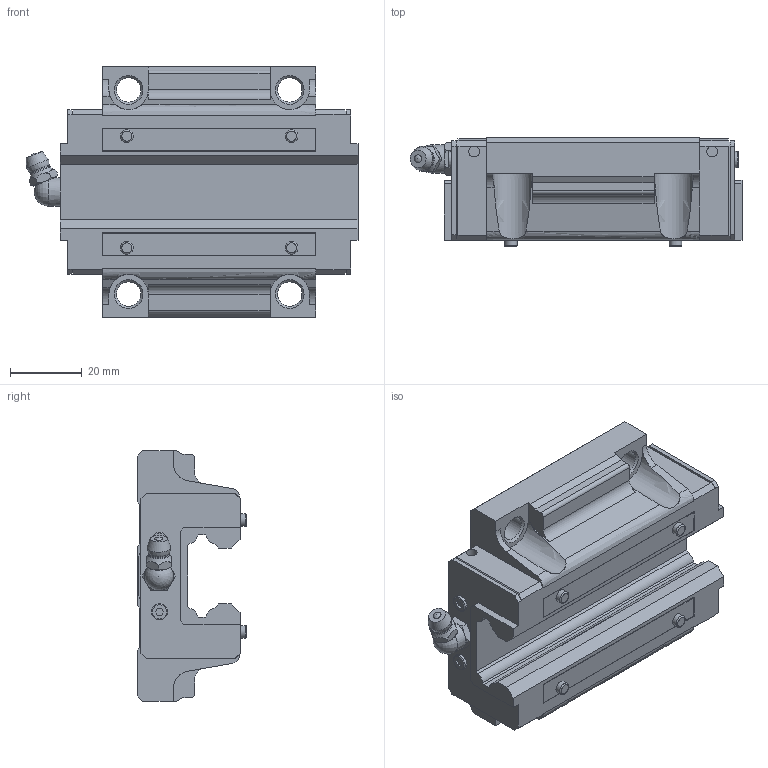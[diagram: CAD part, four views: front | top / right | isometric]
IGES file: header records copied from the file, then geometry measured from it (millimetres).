
Start section: Data from Parasolid IGES Translator 26.0.171, Copyright(c) 2006 Siemens PLM Software. All Rights Reserved.
Global section: file name: HSR25C1SS(GK) BLOCK(1B-M6F).igs; native system: By Siemens PLM Incorporated; preprocessor: XPlus GENERIC/IGES 26.0.171; author: Noname; organization: Noname; date: 20240521.045507; units: millimetre
Bounding box: 92.7 x 30.5 x 70 mm (x, y, z)
Surface area: 22074.1 mm2 (no closed solid volume)
Topology: 0 solids, 0 shells, 279 faces, 1488 edges, 1425 vertices
Faces by surface type: extrusion 192, revolution 87
